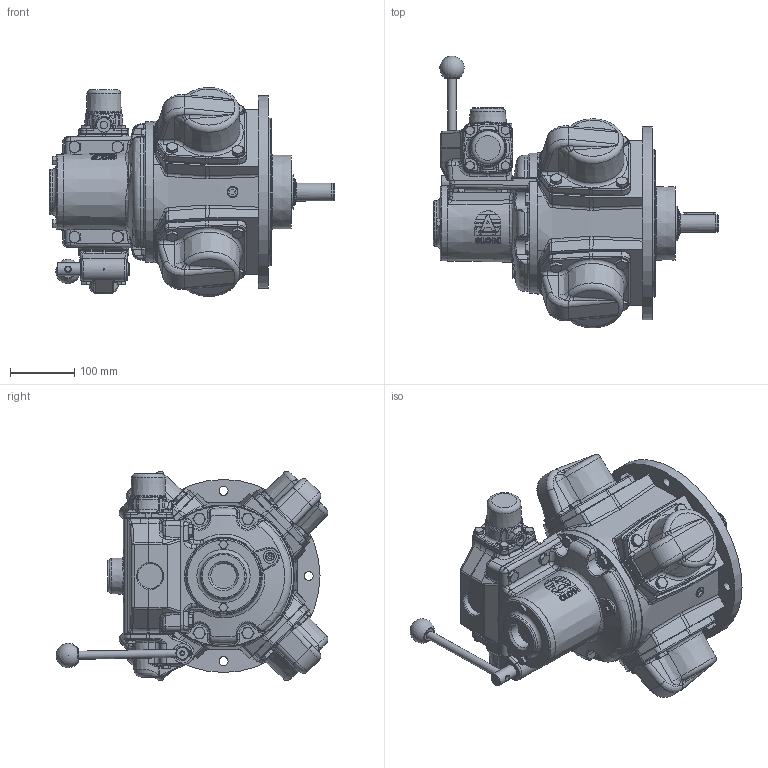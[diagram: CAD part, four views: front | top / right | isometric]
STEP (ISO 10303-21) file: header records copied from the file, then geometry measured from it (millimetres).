
FILE_DESCRIPTION (( 'STEP AP214' ), '1' );
FILE_NAME ('RM410+HCV410 Defeature + Logo.STEP', '2023-05-17T13:49:19', ( '' ), ( '' ), 'SwSTEP 2.0', 'SolidWorks 2022', '' );
FILE_SCHEMA (( 'AUTOMOTIVE_DESIGN' ));
Length unit declared in the file: millimetre
Products named in the file (1): RM410+HCV410 Defeature + Logo
Bounding box: 443.23 x 422.83 x 324.82 mm (x, y, z)
Volume: 16656491.6 mm3; surface area: 612747.9 mm2
Topology: 1 solids, 1 shells, 2643 faces, 6537 edges, 3995 vertices
Faces by surface type: plane 1123, bspline 569, cylinder 464, cone 390, torus 92, sphere 5
Full cylindrical faces by diameter (mm): 2 x5, 3.1 x2, 3.175 x1, 6.8 x2, 10 x1, 11.445 x3, 11.75 x1, 12.453 x2, 12.7 x1, 13 x10, 13.157 x1, 14 x4, 16 x4, 17 x24, 18 x4, 19 x2, 19.5 x1, 20 x4, 21.5 x3, 22.2 x1, 28.003 x1, 30 x2, 38.05 x1, 39 x1, 39.5 x1, 39.6 x1, 54 x1, 56.1 x1, 77.7 x1, 90 x1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
Entity records: 162158 total; most frequent: CARTESIAN_POINT 77529, ORIENTED_EDGE 12558, DIRECTION 9789, EDGE_CURVE 6279, VERTEX_POINT 3917, AXIS2_PLACEMENT_3D 3715, EDGE_LOOP 2936, FACE_OUTER_BOUND 2744
